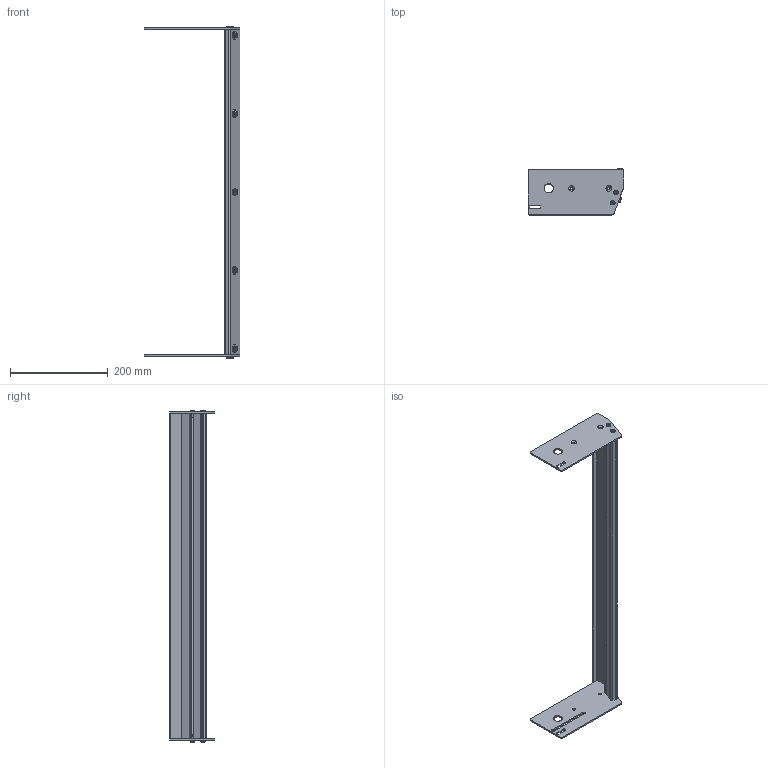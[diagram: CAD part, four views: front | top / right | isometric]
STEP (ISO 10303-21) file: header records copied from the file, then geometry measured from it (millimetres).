
FILE_DESCRIPTION((''),'2;1');
FILE_NAME('351199-26_ASM','2023-03-15T',('jenni.wallner'),(''),'PRO/ENGINEER BY PARAMETRIC TECHNOLOGY CORPORATION, 2012420','PRO/ENGINEER BY PARAMETRIC TECHNOLOGY CORPORATION, 2012420','');
FILE_SCHEMA(('CONFIG_CONTROL_DESIGN'));
Length unit declared in the file: inch
Products named in the file (10): 990603M; 9506XXM_950612M; 351201; 351203-WW_351203-26; 351202-WW_351202-26; 605279P; 351200_DEFAULT_AS_MACHINED_; 9505XXM_950512M; ASM0001_ASM; 351199-26_ASM
Assembly tree (24 placements, depth 3):
  351199-26_ASM
    ASM0001_ASM
      990603M  x5
      9506XXM_950612M  x5
      351201
      351203-WW_351203-26
      351202-WW_351202-26
      605279P  x5
      351200_DEFAULT_AS_MACHINED_
      9505XXM_950512M  x4
Bounding box: 196.11 x 93.08 x 679.49 mm (x, y, z)
Volume: 370681.4 mm3; surface area: 300446.3 mm2
Topology: 23 solids, 23 shells, 460 faces, 1088 edges, 692 vertices
Faces by surface type: plane 210, cylinder 158, cone 92
Entity records: 8187 total; most frequent: CARTESIAN_POINT 1514, DIRECTION 1469, ORIENTED_EDGE 1274, EDGE_CURVE 637, AXIS2_PLACEMENT_3D 554, VERTEX_POINT 416, VECTOR 361, LINE 361
